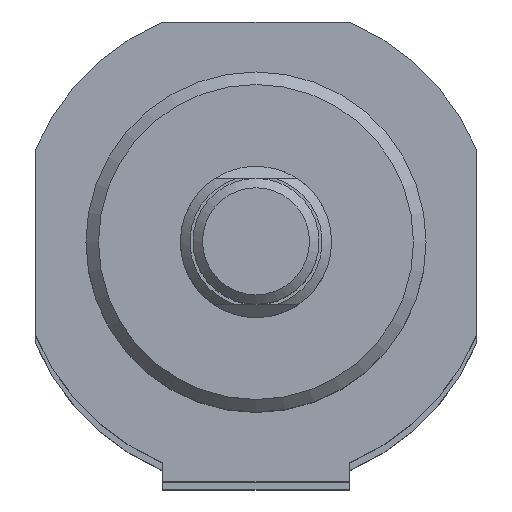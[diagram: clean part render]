
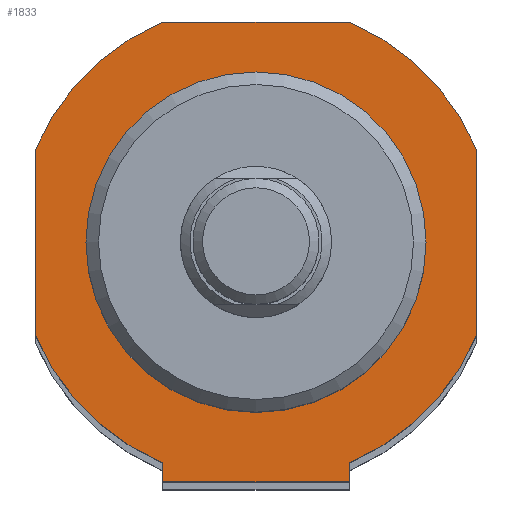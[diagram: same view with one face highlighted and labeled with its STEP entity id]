
A CAD part, top view. The second image highlights one B-rep face of the part: STEP entity #1833.
In plain terms, the highlighted planar face has unit normal (0, 0, 1).
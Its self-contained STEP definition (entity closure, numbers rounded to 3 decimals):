
#898=CARTESIAN_POINT('',(7.399,-19.0,399.));
#899=VERTEX_POINT('',#898);
#900=CARTESIAN_POINT('',(-7.399,-19.0,399.));
#901=VERTEX_POINT('',#900);
#902=CARTESIAN_POINT('',(7.399,-19.0,399.));
#903=DIRECTION('',(-1.0,0.0,0.0));
#904=VECTOR('',#903,14.799);
#905=LINE('',#902,#904);
#906=EDGE_CURVE('',#899,#901,#905,.T.);
#1054=CARTESIAN_POINT('',(-7.399,-17.5,399.));
#1055=VERTEX_POINT('',#1054);
#1069=CARTESIAN_POINT('',(-7.399,-17.5,399.));
#1070=DIRECTION('',(0.0,-1.0,0.0));
#1071=VECTOR('',#1070,1.5);
#1072=LINE('',#1069,#1071);
#1073=EDGE_CURVE('',#1055,#901,#1072,.T.);
#1085=CARTESIAN_POINT('',(7.399,-17.5,399.));
#1086=VERTEX_POINT('',#1085);
#1093=CARTESIAN_POINT('',(7.399,-17.5,399.));
#1094=DIRECTION('',(0.0,-1.0,0.0));
#1095=VECTOR('',#1094,1.5);
#1096=LINE('',#1093,#1095);
#1097=EDGE_CURVE('',#1086,#899,#1096,.T.);
#1561=CARTESIAN_POINT('',(13.5,0.,399.));
#1562=VERTEX_POINT('',#1561);
#1563=CARTESIAN_POINT('',(0.,0.,399.));
#1564=DIRECTION('',(0.0,0.0,-1.0));
#1565=DIRECTION('',(-1.0,0.0,0.0));
#1566=AXIS2_PLACEMENT_3D('',#1563,#1564,#1565);
#1567=CIRCLE('',#1566,13.5);
#1568=EDGE_CURVE('',#1562,#1562,#1567,.T.);
#1653=CARTESIAN_POINT('',(-7.399,17.5,399.));
#1654=VERTEX_POINT('',#1653);
#1655=CARTESIAN_POINT('',(7.399,17.5,399.));
#1656=VERTEX_POINT('',#1655);
#1657=CARTESIAN_POINT('',(-7.399,17.5,399.));
#1658=DIRECTION('',(1.0,0.0,0.0));
#1659=VECTOR('',#1658,14.799);
#1660=LINE('',#1657,#1659);
#1661=EDGE_CURVE('',#1654,#1656,#1660,.T.);
#1684=CARTESIAN_POINT('',(17.5,7.399,399.));
#1685=VERTEX_POINT('',#1684);
#1686=CARTESIAN_POINT('',(0.,0.,399.0));
#1687=DIRECTION('',(0.,0.,-1.0));
#1688=DIRECTION('',(0.921,0.389,0.));
#1689=AXIS2_PLACEMENT_3D('',#1686,#1687,#1688);
#1690=CIRCLE('',#1689,19.0);
#1691=EDGE_CURVE('',#1656,#1685,#1690,.T.);
#1709=CARTESIAN_POINT('',(17.5,-7.399,399.));
#1710=VERTEX_POINT('',#1709);
#1711=CARTESIAN_POINT('',(17.5,7.399,399.));
#1712=DIRECTION('',(0.0,-1.0,0.0));
#1713=VECTOR('',#1712,14.799);
#1714=LINE('',#1711,#1713);
#1715=EDGE_CURVE('',#1685,#1710,#1714,.T.);
#1733=CARTESIAN_POINT('',(0.,0.,399.0));
#1734=DIRECTION('',(0.,0.,-1.));
#1735=DIRECTION('',(0.389,-0.921,0.));
#1736=AXIS2_PLACEMENT_3D('',#1733,#1734,#1735);
#1737=CIRCLE('',#1736,19.0);
#1738=EDGE_CURVE('',#1710,#1086,#1737,.T.);
#1751=CARTESIAN_POINT('',(-17.5,-7.399,399.));
#1752=VERTEX_POINT('',#1751);
#1753=CARTESIAN_POINT('',(0.,0.,399.0));
#1754=DIRECTION('',(0.,0.,-1.0));
#1755=DIRECTION('',(-0.921,-0.389,0.));
#1756=AXIS2_PLACEMENT_3D('',#1753,#1754,#1755);
#1757=CIRCLE('',#1756,19.0);
#1758=EDGE_CURVE('',#1055,#1752,#1757,.T.);
#1776=CARTESIAN_POINT('',(-17.5,7.399,399.));
#1777=VERTEX_POINT('',#1776);
#1778=CARTESIAN_POINT('',(-17.5,-7.399,399.));
#1779=DIRECTION('',(0.0,1.0,0.0));
#1780=VECTOR('',#1779,14.799);
#1781=LINE('',#1778,#1780);
#1782=EDGE_CURVE('',#1752,#1777,#1781,.T.);
#1800=CARTESIAN_POINT('',(0.,0.,399.0));
#1801=DIRECTION('',(0.,0.,-1.));
#1802=DIRECTION('',(-0.389,0.921,0.));
#1803=AXIS2_PLACEMENT_3D('',#1800,#1801,#1802);
#1804=CIRCLE('',#1803,19.0);
#1805=EDGE_CURVE('',#1777,#1654,#1804,.T.);
#1813=CARTESIAN_POINT('',(0.,0.,399.));
#1814=DIRECTION('',(0.0,0.0,1.0));
#1815=DIRECTION('',(1.0,0.0,0.0));
#1816=AXIS2_PLACEMENT_3D('',#1813,#1814,#1815);
#1817=PLANE('',#1816);
#1818=ORIENTED_EDGE('',*,*,#1661,.F.);
#1819=ORIENTED_EDGE('',*,*,#1805,.F.);
#1820=ORIENTED_EDGE('',*,*,#1782,.F.);
#1821=ORIENTED_EDGE('',*,*,#1758,.F.);
#1822=ORIENTED_EDGE('',*,*,#1073,.T.);
#1823=ORIENTED_EDGE('',*,*,#906,.F.);
#1824=ORIENTED_EDGE('',*,*,#1097,.F.);
#1825=ORIENTED_EDGE('',*,*,#1738,.F.);
#1826=ORIENTED_EDGE('',*,*,#1715,.F.);
#1827=ORIENTED_EDGE('',*,*,#1691,.F.);
#1828=EDGE_LOOP('',(#1818,#1819,#1820,#1821,#1822,#1823,#1824,#1825,#1826,#1827));
#1829=FACE_OUTER_BOUND('',#1828,.T.);
#1830=ORIENTED_EDGE('',*,*,#1568,.T.);
#1831=EDGE_LOOP('',(#1830));
#1832=FACE_BOUND('',#1831,.T.);
#1833=ADVANCED_FACE('',(#1829,#1832),#1817,.T.);
